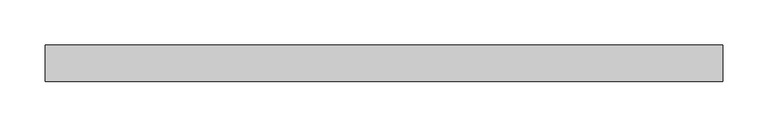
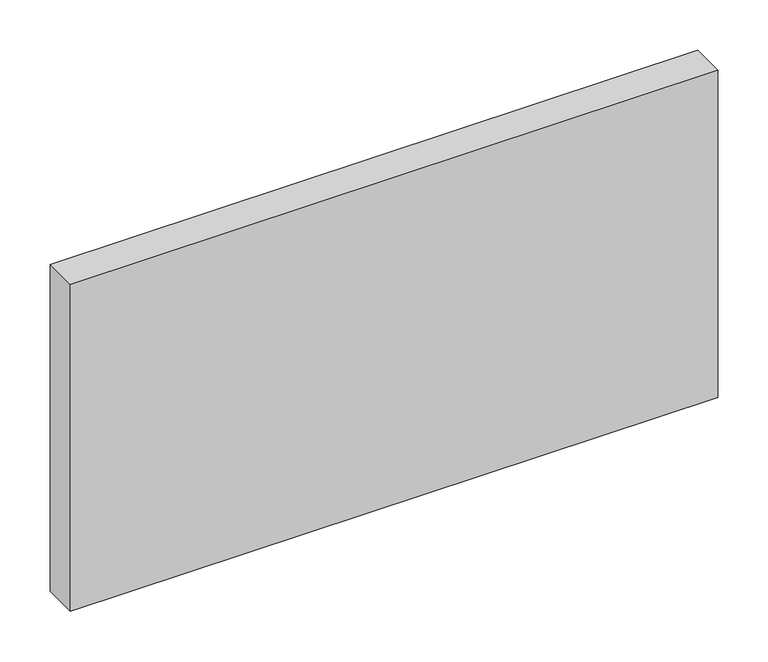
"""IFC4 building model written with IfcOpenShell, lengths in millimetres: plate geometry, Panneau système vide : Epaiss. 4cm."""

from ifc_helpers import new_model, si_unit, origin, origin_with_axes, place, context, project, spatial, polyline, outline, extrude, source, transform, mapped, element, save


def plate_ff19c530(model_context):
    return source(origin(), model_context, "Body", "SweptSolid", [
        extrude(outline(polyline([(372.3, -20.0), (-372.3, -20.0), (-372.3, 20.0), (372.3, 20.0), (372.3, -20.0)])), origin_with_axes(), (0.0, 0.0, 1.0), 398.0),
    ])


if __name__ == "__main__":
    model = new_model("IFC4")
    model_context = context("Model", 3, world=origin())
    ifc_project = project(units=[si_unit("LENGTHUNIT", "METRE", prefix="MILLI")], contexts=[model_context])
    site = spatial("IfcSite", under=ifc_project)
    building = spatial("IfcBuilding", under=site)
    placement = place(None, origin())
    plate_shape = plate_ff19c530(model_context)
    element("IfcPlate", 1, ObjectType="Panneau système vide : Epaiss. 4cm", at=placement, inside=building, context=model_context, shape_type="MappedRepresentation", body=[
        mapped(plate_shape, transform((0.0, 0.0, 0.0), x_axis=(1.0, 0.0, 0.0), y_axis=(0.0, 1.0, 0.0), z_axis=(0.0, 0.0, 1.0))),
    ])
    save(model, "model.ifc")
